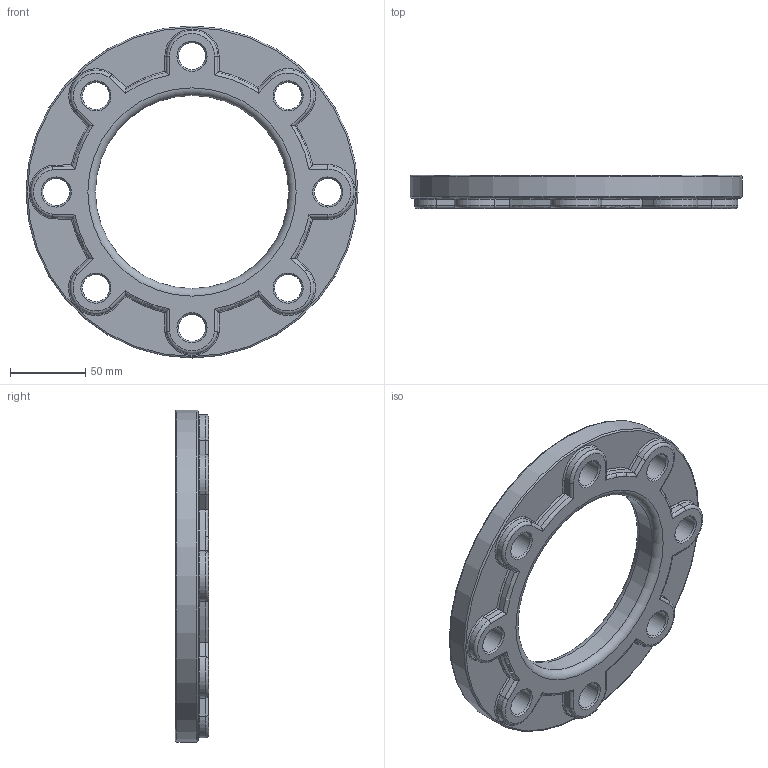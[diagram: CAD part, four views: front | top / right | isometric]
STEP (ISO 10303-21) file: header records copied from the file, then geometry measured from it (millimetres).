
FILE_DESCRIPTION(/* description */ ('Unknown'),/* implementation_level */ '2;1');
FILE_NAME(/* name */ 'FA110B',/* time_stamp */ '2022-07-19T12:05:47+02:00',/* author */ ('Unknown'),/* organization */ ('Unknown'),/* preprocessor_version */ 'ST-DEVELOPER v18.102',/* originating_system */ 'Solid Edge',/* authorisation */ 'Unknown');
FILE_SCHEMA (('AUTOMOTIVE_DESIGN {1 0 10303 214 3 1 1}'));
Length unit declared in the file: millimetre
Products named in the file (1): FA110B
Bounding box: 220 x 22 x 220 mm (x, y, z)
Volume: 425107.7 mm3; surface area: 77360.8 mm2
Topology: 1 solids, 1 shells, 129 faces, 318 edges, 192 vertices
Faces by surface type: cylinder 58, torus 36, plane 19, cone 16
Full cylindrical faces by diameter (mm): 18 x8, 128 x1, 220 x1
Entity records: 3574 total; most frequent: CARTESIAN_POINT 772, DIRECTION 588, ORIENTED_EDGE 528, EDGE_CURVE 264, AXIS2_PLACEMENT_3D 246, EDGE_LOOP 178, FACE_BOUND 178, VERTEX_POINT 168
